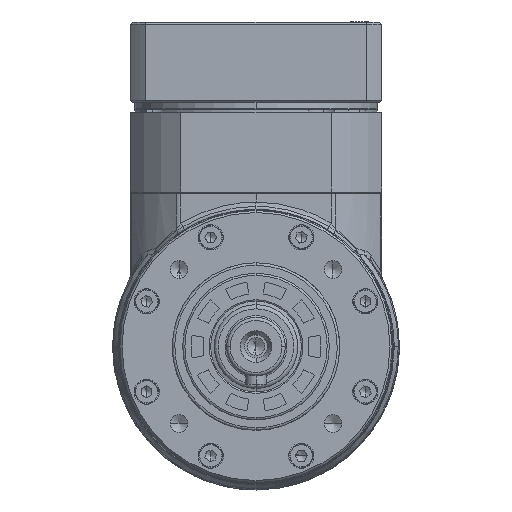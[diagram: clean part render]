
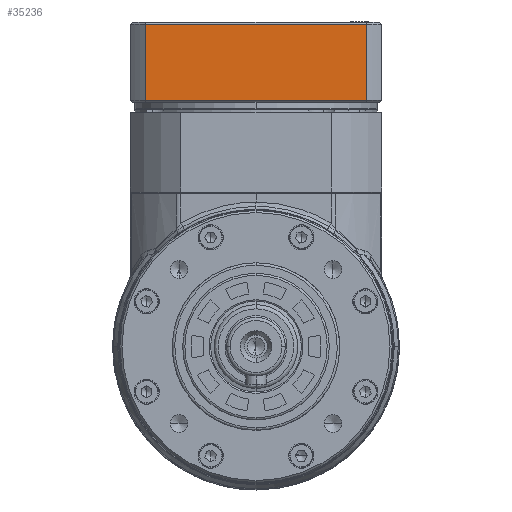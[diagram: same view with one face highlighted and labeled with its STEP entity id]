
A CAD part, left-side view. The second image highlights one B-rep face of the part: STEP entity #35236.
In plain terms, the highlighted planar face has unit normal (-1, 0, 0).
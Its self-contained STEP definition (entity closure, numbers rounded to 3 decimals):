
#281 = CARTESIAN_POINT ( 'NONE',  ( -66.465, -0.462, 54.331 ) ) ;
#1428 = VECTOR ( 'NONE', #45285, 1000. ) ;
#1947 = ORIENTED_EDGE ( 'NONE', *, *, #36500, .T. ) ;
#4316 = CARTESIAN_POINT ( 'NONE',  ( -66.465, -0.462, 129.831 ) ) ;
#4631 = CARTESIAN_POINT ( 'NONE',  ( -66.465, -53.377, 54.331 ) ) ;
#5617 = EDGE_CURVE ( 'NONE', #8723, #56468, #62591, .T. ) ;
#8645 = FACE_OUTER_BOUND ( 'NONE', #22228, .T. ) ;
#8723 = VERTEX_POINT ( 'NONE', #40598 ) ;
#10723 = CARTESIAN_POINT ( 'NONE',  ( -66.465, -0.462, 105.331 ) ) ;
#11930 = CARTESIAN_POINT ( 'NONE',  ( -66.465, -0.462, 129.831 ) ) ;
#14305 = DIRECTION ( 'NONE',  ( 0., 0., 1. ) ) ;
#15186 = AXIS2_PLACEMENT_3D ( 'NONE', #281, #49997, #14305 ) ;
#16863 = CARTESIAN_POINT ( 'NONE',  ( -66.465, -26.92, 111.631 ) ) ;
#16949 = LINE ( 'NONE', #11930, #34278 ) ;
#17179 = DIRECTION ( 'NONE',  ( 0., -1., 0. ) ) ;
#19388 = VERTEX_POINT ( 'NONE', #4316 ) ;
#20148 = VECTOR ( 'NONE', #31076, 1000. ) ;
#22108 = CARTESIAN_POINT ( 'NONE',  ( -66.465, -53.377, 129.831 ) ) ;
#22228 = EDGE_LOOP ( 'NONE', ( #31349, #56478, #49692, #1947 ) ) ;
#22856 = EDGE_CURVE ( 'NONE', #52177, #19388, #16949, .T. ) ;
#26170 = CARTESIAN_POINT ( 'NONE',  ( -66.465, -53.377, 111.631 ) ) ;
#28985 = PLANE ( 'NONE',  #15186 ) ;
#31076 = DIRECTION ( 'NONE',  ( 0., 0., 1. ) ) ;
#31349 = ORIENTED_EDGE ( 'NONE', *, *, #22856, .T. ) ;
#34278 = VECTOR ( 'NONE', #47941, 1000. ) ;
#35236 = ADVANCED_FACE ( 'NONE', ( #8645 ), #28985, .T. ) ;
#36500 = EDGE_CURVE ( 'NONE', #56468, #52177, #56325, .T. ) ;
#40598 = CARTESIAN_POINT ( 'NONE',  ( -66.465, -0.462, 111.631 ) ) ;
#43759 = VECTOR ( 'NONE', #17179, 1000. ) ;
#45285 = DIRECTION ( 'NONE',  ( 0., 0., 1. ) ) ;
#47941 = DIRECTION ( 'NONE',  ( 0., 1., 0. ) ) ;
#49692 = ORIENTED_EDGE ( 'NONE', *, *, #5617, .T. ) ;
#49997 = DIRECTION ( 'NONE',  ( -1., 0., 0. ) ) ;
#52177 = VERTEX_POINT ( 'NONE', #22108 ) ;
#56325 = LINE ( 'NONE', #4631, #1428 ) ;
#56457 = LINE ( 'NONE', #10723, #20148 ) ;
#56468 = VERTEX_POINT ( 'NONE', #26170 ) ;
#56478 = ORIENTED_EDGE ( 'NONE', *, *, #63701, .F. ) ;
#62591 = LINE ( 'NONE', #16863, #43759 ) ;
#63701 = EDGE_CURVE ( 'NONE', #8723, #19388, #56457, .T. ) ;
